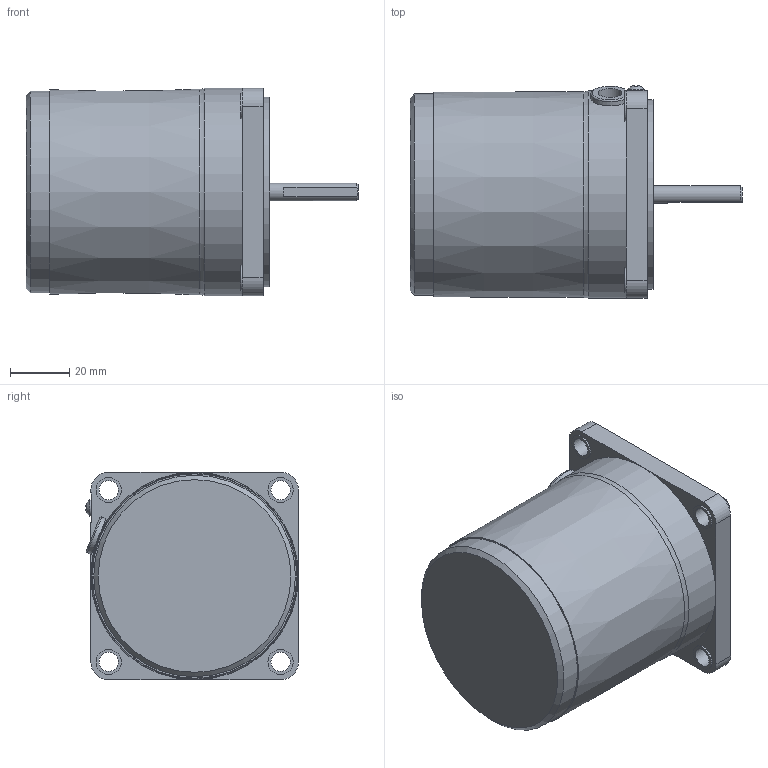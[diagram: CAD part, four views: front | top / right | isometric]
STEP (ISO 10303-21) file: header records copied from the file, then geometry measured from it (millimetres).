
FILE_DESCRIPTION(/* description */ (''),/* implementation_level */ '2;1');
FILE_NAME(/* name */ 'E:\도면작업\2016\0704) 미주향 SG 도면\3D MOTOR\SG7I15D_.stp',/* time_stamp */ '2016-07-22T13:43:08+09:00',/* author */ ('jy-jung'),/* organization */ (''),/* preprocessor_version */ 'ST-DEVELOPER v15.6',/* originating_system */ 'Autodesk Inventor 2015',/* authorisation */ '');
FILE_SCHEMA (('AUTOMOTIVE_DESIGN { 1 0 10303 214 3 1 1 }'));
Length unit declared in the file: millimetre
Products named in the file (1): 부품1
Bounding box: 112 x 71.76 x 70 mm (x, y, z)
Volume: 305393.2 mm3; surface area: 30578.6 mm2
Topology: 1 solids, 2 shells, 103 faces, 260 edges, 173 vertices
Faces by surface type: plane 65, cylinder 32, cone 3, torus 2, bspline 1
Full cylindrical faces by diameter (mm): 5.6 x1, 6 x1, 6.5 x4, 8 x1, 8.5 x4, 10 x1, 28 x1, 64 x1, 68 x1, 70 x1
Entity records: 3234 total; most frequent: CARTESIAN_POINT 658, DIRECTION 505, ORIENTED_EDGE 470, EDGE_CURVE 235, AXIS2_PLACEMENT_3D 188, VERTEX_POINT 168, EDGE_LOOP 145, LINE 129
